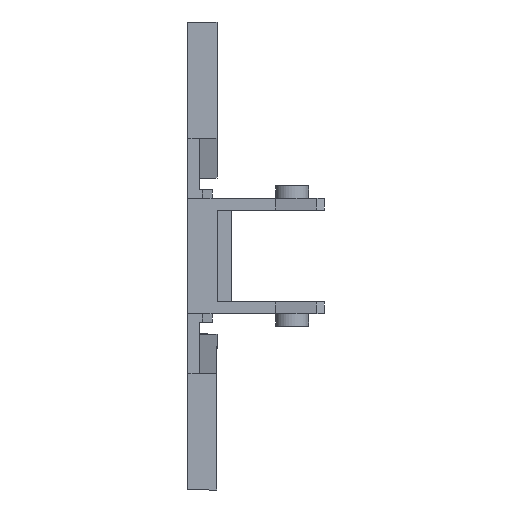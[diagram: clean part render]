
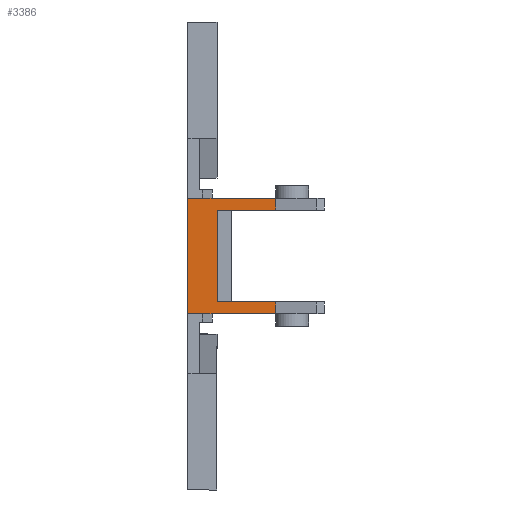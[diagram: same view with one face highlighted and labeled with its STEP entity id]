
A CAD part, front view. The second image highlights one B-rep face of the part: STEP entity #3386.
In plain terms, the highlighted planar face has unit normal (0, -1, 0).
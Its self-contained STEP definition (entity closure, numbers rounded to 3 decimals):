
#10 = LINE ( 'NONE', #848, #11 ) ;
#11 = VECTOR ( 'NONE', #849, 1000. ) ;
#56 = LINE ( 'NONE', #904, #57 ) ;
#57 = VECTOR ( 'NONE', #905, 1000. ) ;
#97 = LINE ( 'NONE', #947, #98 ) ;
#98 = VECTOR ( 'NONE', #948, 1000. ) ;
#212 = FACE_OUTER_BOUND ( 'NONE', #1743, .T. ) ;
#338 = DIRECTION ( 'NONE',  ( 1., 0., 0. ) ) ;
#341 = CARTESIAN_POINT ( 'NONE',  ( 14., -25.55, 4.7 ) ) ;
#393 = CARTESIAN_POINT ( 'NONE',  ( 3., -25.55, -4.7 ) ) ;
#395 = CARTESIAN_POINT ( 'NONE',  ( 9.023, -25.55, 5.9 ) ) ;
#487 = CARTESIAN_POINT ( 'NONE',  ( 0., -25.55, 5.9 ) ) ;
#494 = CARTESIAN_POINT ( 'NONE',  ( 9.023, -25.55, -4.7 ) ) ;
#497 = CARTESIAN_POINT ( 'NONE',  ( 3., -25.55, 4.7 ) ) ;
#501 = CARTESIAN_POINT ( 'NONE',  ( 0., -25.55, -5.9 ) ) ;
#508 = CARTESIAN_POINT ( 'NONE',  ( 9.023, -25.55, -5.9 ) ) ;
#517 = CARTESIAN_POINT ( 'NONE',  ( 9.023, -25.55, 4.7 ) ) ;
#640 = VERTEX_POINT ( 'NONE', #517 ) ;
#649 = VERTEX_POINT ( 'NONE', #508 ) ;
#656 = VERTEX_POINT ( 'NONE', #501 ) ;
#660 = VERTEX_POINT ( 'NONE', #497 ) ;
#663 = VERTEX_POINT ( 'NONE', #494 ) ;
#670 = VERTEX_POINT ( 'NONE', #487 ) ;
#762 = VERTEX_POINT ( 'NONE', #395 ) ;
#764 = VERTEX_POINT ( 'NONE', #393 ) ;
#833 = CARTESIAN_POINT ( 'NONE',  ( 9.023, -25.55, 67.733 ) ) ;
#834 = DIRECTION ( 'NONE',  ( 0., 0., -1. ) ) ;
#848 = CARTESIAN_POINT ( 'NONE',  ( 14., -25.55, 5.9 ) ) ;
#849 = DIRECTION ( 'NONE',  ( -1., 0., 0. ) ) ;
#904 = CARTESIAN_POINT ( 'NONE',  ( 1.5, -25.55, -5.9 ) ) ;
#905 = DIRECTION ( 'NONE',  ( 1., 0., 0. ) ) ;
#947 = CARTESIAN_POINT ( 'NONE',  ( 14., -25.55, -4.7 ) ) ;
#948 = DIRECTION ( 'NONE',  ( 1., 0., 0. ) ) ;
#1113 = CARTESIAN_POINT ( 'NONE',  ( 14., -25.55, -5.9 ) ) ;
#1114 = PLANE ( 'NONE',  #2229 ) ;
#1116 = DIRECTION ( 'NONE',  ( 0., -1., 0. ) ) ;
#1117 = DIRECTION ( 'NONE',  ( -1., 0., 0. ) ) ;
#1506 = ORIENTED_EDGE ( 'NONE', *, *, #2202, .F. ) ;
#1507 = ORIENTED_EDGE ( 'NONE', *, *, #2119, .F. ) ;
#1508 = ORIENTED_EDGE ( 'NONE', *, *, #2163, .T. ) ;
#1509 = ORIENTED_EDGE ( 'NONE', *, *, #2050, .T. ) ;
#1510 = ORIENTED_EDGE ( 'NONE', *, *, #1981, .F. ) ;
#1511 = ORIENTED_EDGE ( 'NONE', *, *, #2130, .T. ) ;
#1512 = ORIENTED_EDGE ( 'NONE', *, *, #1853, .T. ) ;
#1514 = ORIENTED_EDGE ( 'NONE', *, *, #2073, .F. ) ;
#1743 = EDGE_LOOP ( 'NONE', ( #1514, #1512, #1510, #1511, #1509, #1508, #1507, #1506 ) ) ;
#1853 = EDGE_CURVE ( 'NONE', #660, #640, #3367, .T. ) ;
#1981 = EDGE_CURVE ( 'NONE', #762, #640, #3171, .T. ) ;
#2050 = EDGE_CURVE ( 'NONE', #670, #656, #3079, .T. ) ;
#2073 = EDGE_CURVE ( 'NONE', #660, #764, #3050, .T. ) ;
#2119 = EDGE_CURVE ( 'NONE', #663, #649, #3001, .T. ) ;
#2130 = EDGE_CURVE ( 'NONE', #762, #670, #10, .T. ) ;
#2163 = EDGE_CURVE ( 'NONE', #656, #649, #56, .T. ) ;
#2202 = EDGE_CURVE ( 'NONE', #764, #663, #97, .T. ) ;
#2229 = AXIS2_PLACEMENT_3D ( 'NONE', #1113, #1116, #1117 ) ;
#2290 = DIRECTION ( 'NONE',  ( 0., 0., -1. ) ) ;
#2292 = CARTESIAN_POINT ( 'NONE',  ( 3., -25.55, -5.9 ) ) ;
#2334 = DIRECTION ( 'NONE',  ( 0., 0., -1. ) ) ;
#2346 = CARTESIAN_POINT ( 'NONE',  ( 0., -25.55, 15.37 ) ) ;
#2502 = DIRECTION ( 'NONE',  ( 0., 0., -1. ) ) ;
#2503 = CARTESIAN_POINT ( 'NONE',  ( 9.023, -25.55, 67.733 ) ) ;
#3000 = VECTOR ( 'NONE', #834, 1000. ) ;
#3001 = LINE ( 'NONE', #833, #3000 ) ;
#3049 = VECTOR ( 'NONE', #2290, 1000. ) ;
#3050 = LINE ( 'NONE', #2292, #3049 ) ;
#3077 = VECTOR ( 'NONE', #2334, 1000. ) ;
#3079 = LINE ( 'NONE', #2346, #3077 ) ;
#3170 = VECTOR ( 'NONE', #2502, 1000. ) ;
#3171 = LINE ( 'NONE', #2503, #3170 ) ;
#3308 = VECTOR ( 'NONE', #338, 1000. ) ;
#3367 = LINE ( 'NONE', #341, #3308 ) ;
#3386 = ADVANCED_FACE ( 'NONE', ( #212 ), #1114, .T. ) ;
